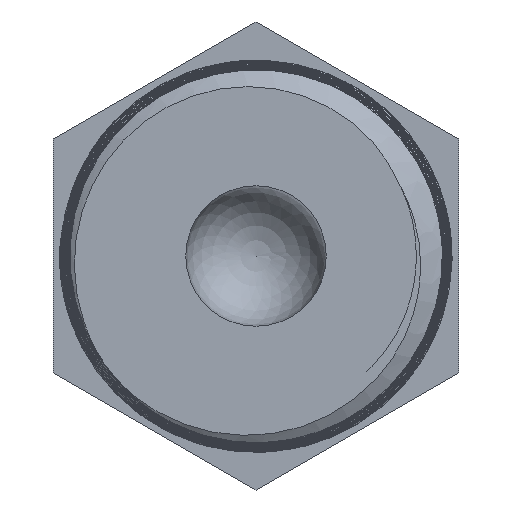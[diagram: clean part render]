
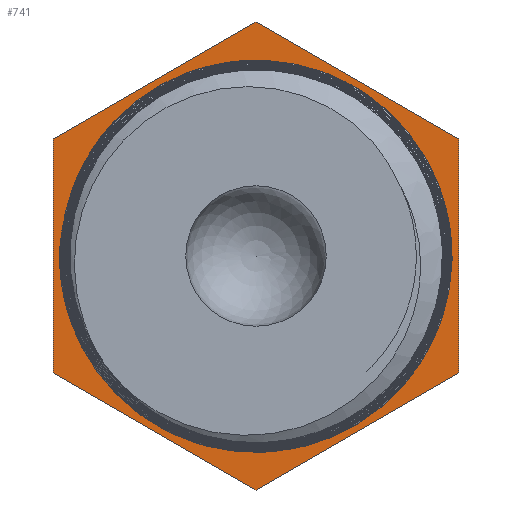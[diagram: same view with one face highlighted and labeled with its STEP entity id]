
A CAD part, left-side view. The second image highlights one B-rep face of the part: STEP entity #741.
In plain terms, the highlighted planar face has unit normal (-1, 0, 0).
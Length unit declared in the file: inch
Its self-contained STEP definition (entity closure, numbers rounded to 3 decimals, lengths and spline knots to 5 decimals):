
#19=FACE_BOUND('',#106,.T.);
#23=PLANE('',#817);
#63=FACE_OUTER_BOUND('',#105,.T.);
#105=EDGE_LOOP('',(#574,#575,#576,#577,#578,#579));
#106=EDGE_LOOP('',(#580,#581,#582));
#137=CIRCLE('',#818,0.42);
#182=B_SPLINE_CURVE_WITH_KNOTS('',3,(#8219,#8220,#8221,#8222,#8223,#8224,
#8225,#8226,#8227,#8228,#8229,#8230,#8231,#8232,#8233,#8234,#8235,#8236,
#8237,#8238,#8239,#8240),.UNSPECIFIED.,.F.,.F.,(4,2,2,2,2,2,2,2,2,2,4),
(-4.43396,-4.10211,-3.76644,-3.1085,-2.42779,
-1.89118,-1.32815,-0.84623,-0.44294,
-0.22179,0.),.UNSPECIFIED.);
#183=B_SPLINE_CURVE_WITH_KNOTS('',3,(#8242,#8243,#8244,#8245,#8246,#8247,
#8248,#8249,#8250,#8251,#8252,#8253,#8254,#8255,#8256,#8257,#8258,#8259),
 .UNSPECIFIED.,.F.,.F.,(4,2,2,2,2,2,2,2,4),(-2.94338,-2.69165,
-2.44325,-1.98969,-1.51697,-1.14445,-0.68856,
-0.30261,-0.00003),.UNSPECIFIED.);
#219=LINE('',#8207,#261);
#220=LINE('',#8209,#262);
#221=LINE('',#8211,#263);
#222=LINE('',#8213,#264);
#223=LINE('',#8215,#265);
#224=LINE('',#8216,#266);
#261=VECTOR('',#935,0.3937);
#262=VECTOR('',#936,0.3937);
#263=VECTOR('',#937,0.3937);
#264=VECTOR('',#938,0.3937);
#265=VECTOR('',#939,0.3937);
#266=VECTOR('',#940,0.3937);
#336=VERTEX_POINT('',#8205);
#337=VERTEX_POINT('',#8206);
#338=VERTEX_POINT('',#8208);
#339=VERTEX_POINT('',#8210);
#340=VERTEX_POINT('',#8212);
#341=VERTEX_POINT('',#8214);
#342=VERTEX_POINT('',#8217);
#343=VERTEX_POINT('',#8218);
#344=VERTEX_POINT('',#8241);
#434=EDGE_CURVE('',#336,#337,#219,.T.);
#435=EDGE_CURVE('',#337,#338,#220,.T.);
#436=EDGE_CURVE('',#338,#339,#221,.T.);
#437=EDGE_CURVE('',#339,#340,#222,.T.);
#438=EDGE_CURVE('',#340,#341,#223,.T.);
#439=EDGE_CURVE('',#341,#336,#224,.T.);
#440=EDGE_CURVE('',#342,#343,#182,.T.);
#441=EDGE_CURVE('',#344,#342,#183,.T.);
#442=EDGE_CURVE('',#343,#344,#137,.T.);
#574=ORIENTED_EDGE('',*,*,#434,.T.);
#575=ORIENTED_EDGE('',*,*,#435,.T.);
#576=ORIENTED_EDGE('',*,*,#436,.T.);
#577=ORIENTED_EDGE('',*,*,#437,.T.);
#578=ORIENTED_EDGE('',*,*,#438,.T.);
#579=ORIENTED_EDGE('',*,*,#439,.T.);
#580=ORIENTED_EDGE('',*,*,#440,.F.);
#581=ORIENTED_EDGE('',*,*,#441,.F.);
#582=ORIENTED_EDGE('',*,*,#442,.F.);
#741=ADVANCED_FACE('',(#63,#19),#23,.T.);
#817=AXIS2_PLACEMENT_3D('',#8204,#933,#934);
#818=AXIS2_PLACEMENT_3D('',#8260,#941,#942);
#933=DIRECTION('center_axis',(-1.,0.,0.));
#934=DIRECTION('ref_axis',(0.,0.,1.));
#935=DIRECTION('',(0.,0.866,0.5));
#936=DIRECTION('',(0.,0.866,-0.5));
#937=DIRECTION('',(0.,0.,-1.));
#938=DIRECTION('',(0.,-0.866,-0.5));
#939=DIRECTION('',(0.,-0.866,0.5));
#940=DIRECTION('',(0.,0.,1.));
#941=DIRECTION('center_axis',(-1.,0.,0.));
#942=DIRECTION('ref_axis',(0.,0.975,-0.222));
#8204=CARTESIAN_POINT('Origin',(1.30437,1.42795,0.));
#8205=CARTESIAN_POINT('',(1.30437,0.56193,0.25));
#8206=CARTESIAN_POINT('',(1.30437,0.99494,0.5));
#8207=CARTESIAN_POINT('',(1.30437,0.56193,0.25));
#8208=CARTESIAN_POINT('',(1.30437,1.42795,0.25));
#8209=CARTESIAN_POINT('',(1.30437,0.99494,0.5));
#8210=CARTESIAN_POINT('',(1.30437,1.42795,-0.25));
#8211=CARTESIAN_POINT('',(1.30437,1.42795,0.25));
#8212=CARTESIAN_POINT('',(1.30437,0.99494,-0.5));
#8213=CARTESIAN_POINT('',(1.30437,1.42795,-0.25));
#8214=CARTESIAN_POINT('',(1.30437,0.56193,-0.25));
#8215=CARTESIAN_POINT('',(1.30437,0.99494,-0.5));
#8216=CARTESIAN_POINT('',(1.30437,0.56193,-0.25));
#8217=CARTESIAN_POINT('',(1.30437,0.63519,-0.06274));
#8218=CARTESIAN_POINT('',(1.30437,1.41471,0.01395));
#8219=CARTESIAN_POINT('Ctrl Pts',(1.30437,0.63519,-0.06274));
#8220=CARTESIAN_POINT('Ctrl Pts',(1.30437,0.62818,-0.03115));
#8221=CARTESIAN_POINT('Ctrl Pts',(1.30437,0.62549,0.00137));
#8222=CARTESIAN_POINT('Ctrl Pts',(1.30437,0.6285,0.0664));
#8223=CARTESIAN_POINT('Ctrl Pts',(1.30437,0.6343,0.09892));
#8224=CARTESIAN_POINT('Ctrl Pts',(1.30437,0.66376,0.19123));
#8225=CARTESIAN_POINT('Ctrl Pts',(1.30437,0.69489,0.23401));
#8226=CARTESIAN_POINT('Ctrl Pts',(1.30437,0.73885,0.28561));
#8227=CARTESIAN_POINT('Ctrl Pts',(1.30437,0.77578,0.32223));
#8228=CARTESIAN_POINT('Ctrl Pts',(1.30437,0.87724,0.37433));
#8229=CARTESIAN_POINT('Ctrl Pts',(1.30437,0.92648,0.38857));
#8230=CARTESIAN_POINT('Ctrl Pts',(1.30437,1.02912,0.39792));
#8231=CARTESIAN_POINT('Ctrl Pts',(1.30437,1.07984,0.3919));
#8232=CARTESIAN_POINT('Ctrl Pts',(1.30437,1.1694,0.36441));
#8233=CARTESIAN_POINT('Ctrl Pts',(1.30437,1.21899,0.34219));
#8234=CARTESIAN_POINT('Ctrl Pts',(1.30437,1.30793,0.26804));
#8235=CARTESIAN_POINT('Ctrl Pts',(1.30437,1.34185,0.22629));
#8236=CARTESIAN_POINT('Ctrl Pts',(1.30437,1.38049,0.15429));
#8237=CARTESIAN_POINT('Ctrl Pts',(1.30437,1.39134,0.12766));
#8238=CARTESIAN_POINT('Ctrl Pts',(1.30437,1.40742,0.0718));
#8239=CARTESIAN_POINT('Ctrl Pts',(1.30437,1.41251,0.04298));
#8240=CARTESIAN_POINT('Ctrl Pts',(1.30437,1.41463,0.01395));
#8241=CARTESIAN_POINT('',(1.30437,1.40442,-0.09343));
#8242=CARTESIAN_POINT('Ctrl Pts',(1.30437,1.40442,-0.09343));
#8243=CARTESIAN_POINT('Ctrl Pts',(1.30437,1.39427,-0.12982));
#8244=CARTESIAN_POINT('Ctrl Pts',(1.30437,1.37908,-0.1648));
#8245=CARTESIAN_POINT('Ctrl Pts',(1.30437,1.34025,-0.22903));
#8246=CARTESIAN_POINT('Ctrl Pts',(1.30437,1.31672,-0.25838));
#8247=CARTESIAN_POINT('Ctrl Pts',(1.30437,1.2401,-0.33067));
#8248=CARTESIAN_POINT('Ctrl Pts',(1.30437,1.18933,-0.35497));
#8249=CARTESIAN_POINT('Ctrl Pts',(1.30437,1.1189,-0.38156));
#8250=CARTESIAN_POINT('Ctrl Pts',(1.30437,1.06721,-0.39549));
#8251=CARTESIAN_POINT('Ctrl Pts',(1.30437,0.9523,-0.3918));
#8252=CARTESIAN_POINT('Ctrl Pts',(1.30437,0.90192,-0.38041));
#8253=CARTESIAN_POINT('Ctrl Pts',(1.30437,0.79906,-0.33449));
#8254=CARTESIAN_POINT('Ctrl Pts',(1.30437,0.76052,-0.30081));
#8255=CARTESIAN_POINT('Ctrl Pts',(1.30437,0.71646,-0.25504));
#8256=CARTESIAN_POINT('Ctrl Pts',(1.30437,0.6896,-0.2226));
#8257=CARTESIAN_POINT('Ctrl Pts',(1.30437,0.65105,-0.14086));
#8258=CARTESIAN_POINT('Ctrl Pts',(1.30437,0.63995,-0.10216));
#8259=CARTESIAN_POINT('Ctrl Pts',(1.30437,0.63523,-0.06274));
#8260=CARTESIAN_POINT('Origin',(1.30437,0.99494,0.));
